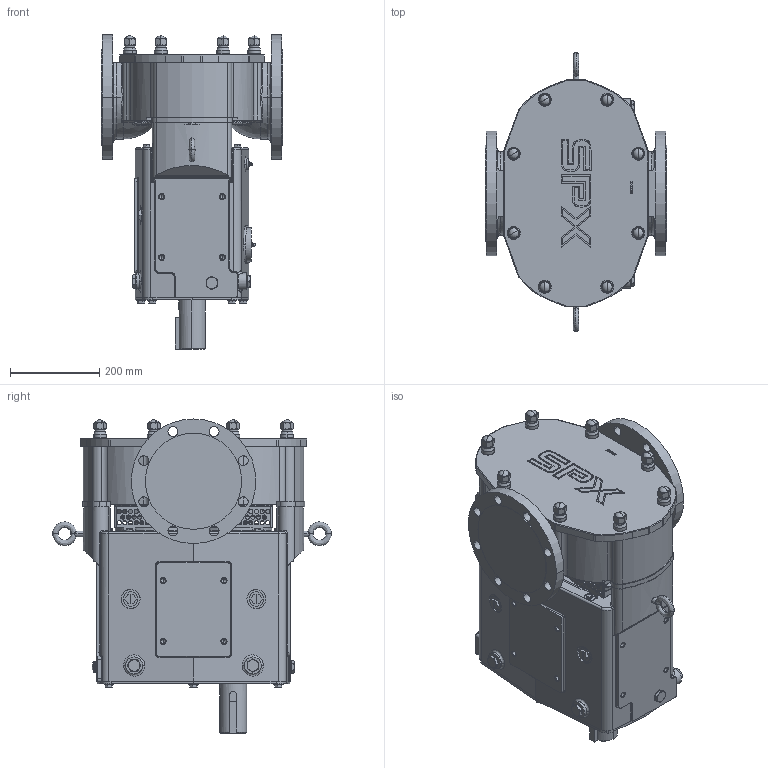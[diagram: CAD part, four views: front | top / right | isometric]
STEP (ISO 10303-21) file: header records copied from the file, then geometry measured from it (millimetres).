
FILE_DESCRIPTION (( 'STEP AP214' ), '1' );
FILE_NAME ('Model 320 Universal 3 Series Side Mount RH.STEP', '2017-11-27T18:02:29', ( '' ), ( '' ), 'SwSTEP 2.0', 'SolidWorks 2014', '' );
FILE_SCHEMA (( 'AUTOMOTIVE_DESIGN' ));
Length unit declared in the file: inch
Products named in the file (1): Model 320 Universal 3 Series Side Mount RH
Bounding box: 406.4 x 625.62 x 704.58 mm (x, y, z)
Volume: 47655340.7 mm3; surface area: 2487882.2 mm2
Topology: 1 solids, 1 shells, 2671 faces, 6795 edges, 4238 vertices
Faces by surface type: plane 939, cylinder 935, torus 297, cone 245, bspline 191, sphere 64
Entity records: 94990 total; most frequent: CARTESIAN_POINT 30821, DIRECTION 13498, ORIENTED_EDGE 13470, EDGE_CURVE 6735, AXIS2_PLACEMENT_3D 5229, VERTEX_POINT 4234, EDGE_LOOP 3065, VECTOR 3040
